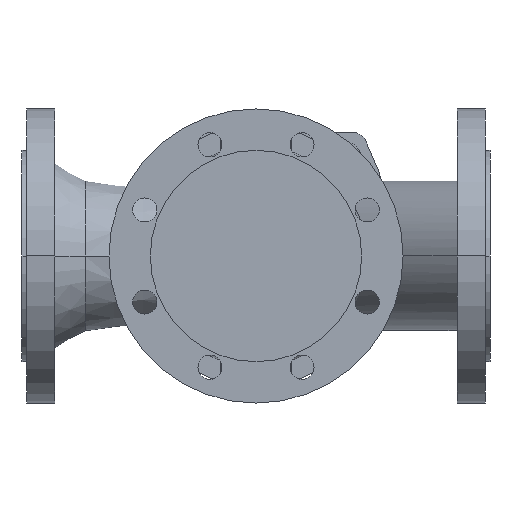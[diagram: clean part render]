
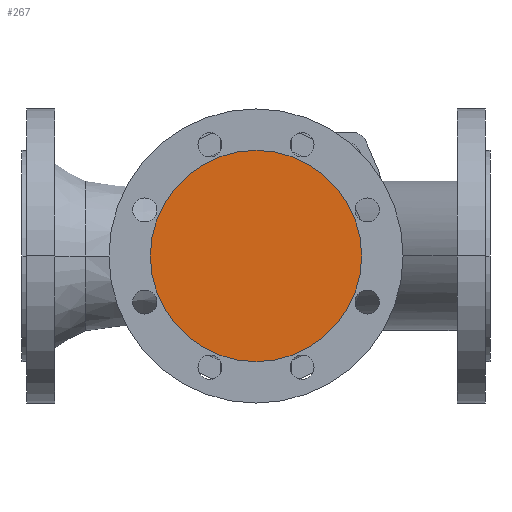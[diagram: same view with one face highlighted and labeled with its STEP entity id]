
A CAD part, front view. The second image highlights one B-rep face of the part: STEP entity #267.
In plain terms, the highlighted planar face has unit normal (0, -1, 0).
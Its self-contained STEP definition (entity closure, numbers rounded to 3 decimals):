
#267 = ADVANCED_FACE( '', ( #738 ), #739, .T. );
#738 = FACE_OUTER_BOUND( '', #1354, .T. );
#739 = PLANE( '', #1355 );
#1354 = EDGE_LOOP( '', ( #2787, #2788 ) );
#1355 = AXIS2_PLACEMENT_3D( '', #2789, #2790, #2791 );
#2787 = ORIENTED_EDGE( '', *, *, #3883, .F. );
#2788 = ORIENTED_EDGE( '', *, *, #4241, .F. );
#2789 = CARTESIAN_POINT( '', ( 214.5, -150., 0. ) );
#2790 = DIRECTION( '', ( 0., -1., 0. ) );
#2791 = DIRECTION( '', ( -1., 0., 0. ) );
#3883 = EDGE_CURVE( '', #4613, #4616, #4617, .T. );
#4241 = EDGE_CURVE( '', #4616, #4613, #5205, .T. );
#4613 = VERTEX_POINT( '', #5861 );
#4616 = VERTEX_POINT( '', #5865 );
#4617 = CIRCLE( '', #5866, 79. );
#5205 = CIRCLE( '', #6956, 79. );
#5861 = CARTESIAN_POINT( '', ( 254., -150., 0. ) );
#5865 = CARTESIAN_POINT( '', ( 96., -150., 0. ) );
#5866 = AXIS2_PLACEMENT_3D( '', #7783, #7784, #7785 );
#6956 = AXIS2_PLACEMENT_3D( '', #8516, #8517, #8518 );
#7783 = CARTESIAN_POINT( '', ( 175., -150., 0. ) );
#7784 = DIRECTION( '', ( 0., 1., 0. ) );
#7785 = DIRECTION( '', ( 1., 0., 0. ) );
#8516 = CARTESIAN_POINT( '', ( 175., -150., 0. ) );
#8517 = DIRECTION( '', ( 0., 1., 0. ) );
#8518 = DIRECTION( '', ( 1., 0., 0. ) );
